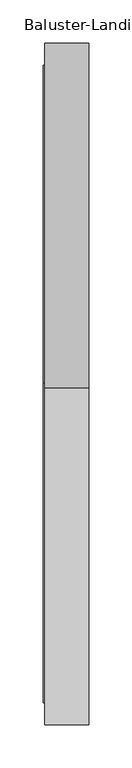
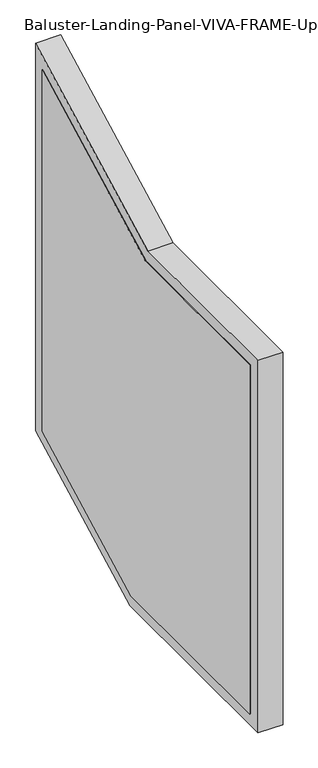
"""IFC4 building model written with IfcOpenShell, lengths in millimetres: railing geometry, Baluster-Landing-Panel-VIVA-FRAME-Upper : Standard_PP01."""

from ifc_helpers import new_model, si_unit, frame, origin, place, context, project, spatial, polyline, outline, extrude, faceted_brep, source, transform, mapped, element, save


def baluster_landing_panel_viva_frame_upper_standard_pp01_60e66afc(model_context):
    return source(origin(), model_context, "Body", "SolidModel", [
        extrude(outline(polyline([(198.3597931, 150.8238514), (198.3597931, 903.224), (567.5964726, 903.224), (933.9372584, 1093.9289424), (933.9372584, 315.0667886), (618.4295116, 150.8238514), (198.3597931, 150.8238514)])), frame((62.2681, 0.0, 0.0), z_axis=(1.0, 0.0, 0.0), x_axis=(0.0, 1.0, 0.0)), (0.0, 0.0, 1.0), 2.9972),
        faceted_brep([(63.7667, 561.3811321, 928.624), (63.7667, 172.9597931, 928.624), (114.5667, 172.9597931, 928.624), (114.5667, 561.3811321, 928.624), (63.7667, 172.9597931, 125.4238514), (114.5667, 172.9597931, 125.4238514), (114.5667, 624.6448521, 125.4238514), (114.5667, 959.3372584, 299.6536902), (114.5667, 959.3372584, 1135.7868469), (114.5667, 953.3428584, 303.2911815), (114.5667, 623.1780317, 131.4182514), (114.5667, 178.9541931, 131.4182514), (114.5667, 178.9541931, 922.6296), (114.5667, 562.8479524, 922.6296), (114.5667, 953.3428584, 1125.9083814), (63.7667, 624.6448521, 125.4238514), (63.7667, 959.3372584, 299.6536902), (63.7667, 959.3372584, 1135.7868469), (63.7667, 223.7597931, 877.824), (63.7667, 223.7597931, 176.2238514), (63.7667, 612.2141711, 176.2238514), (63.7667, 908.5372584, 330.479887), (63.7667, 908.5372584, 1052.0710378), (63.7667, 573.811813, 877.824), (83.7565, 573.811813, 877.824), (83.7565, 223.7597931, 877.824), (83.7565, 223.7597931, 176.2238514), (83.7565, 612.2141711, 176.2238514), (83.7565, 178.9541931, 922.6296), (83.7565, 178.9541931, 131.4182514), (83.7565, 623.1780317, 131.4182514), (83.7565, 953.3428584, 303.2911815), (83.7565, 953.3428584, 1125.9083814), (83.7565, 562.8479524, 922.6296), (83.7565, 908.5372584, 330.479887), (83.7565, 908.5372584, 1052.0710378)], [[[0, 1, 2, 3]], [[1, 4, 5, 2]], [[2, 5, 6, 7, 8, 3], [9, 10, 11, 12, 13, 14]], [[4, 15, 6, 5]], [[16, 15, 4, 1, 0, 17], [18, 19, 20, 21, 22, 23]], [[24, 25, 18, 23]], [[25, 26, 19, 18]], [[26, 27, 20, 19]], [[28, 29, 30, 31, 32, 33], [34, 27, 26, 25, 24, 35]], [[13, 12, 28, 33]], [[12, 11, 29, 28]], [[11, 10, 30, 29]], [[15, 16, 7, 6]], [[27, 34, 21, 20]], [[10, 9, 31, 30]], [[16, 17, 8, 7]], [[34, 35, 22, 21]], [[9, 14, 32, 31]], [[17, 0, 3, 8]], [[35, 24, 23, 22]], [[14, 13, 33, 32]]]),
    ])


if __name__ == "__main__":
    model = new_model("IFC4")
    model_context = context("Model", 3, world=origin())
    ifc_project = project(units=[si_unit("LENGTHUNIT", "METRE", prefix="MILLI")], contexts=[model_context])
    site = spatial("IfcSite", under=ifc_project)
    building = spatial("IfcBuilding", under=site)
    placement = place(None, origin())
    baluster_landing_panel_viva_frame_upper_standard_pp01_shape = baluster_landing_panel_viva_frame_upper_standard_pp01_60e66afc(model_context)
    element("IfcRailing", 1, ObjectType="Baluster-Landing-Panel-VIVA-FRAME-Upper : Standard_PP01", at=placement, inside=building, context=model_context, shape_type="MappedRepresentation", body=[
        mapped(baluster_landing_panel_viva_frame_upper_standard_pp01_shape, transform((0.0, 0.0, 0.0), x_axis=(1.0, 0.0, 0.0), y_axis=(0.0, 1.0, 0.0), z_axis=(0.0, 0.0, 1.0))),
    ])
    save(model, "model.ifc")
